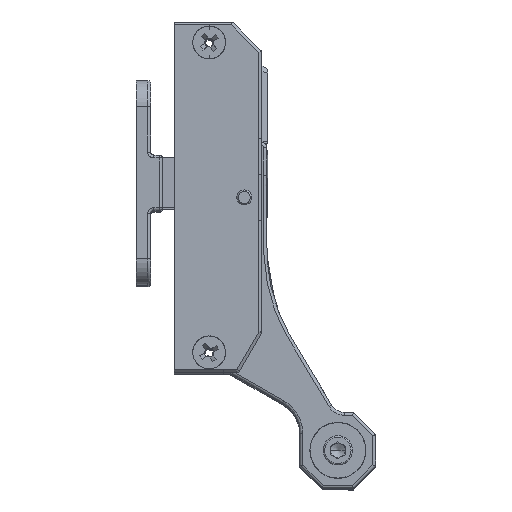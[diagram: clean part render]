
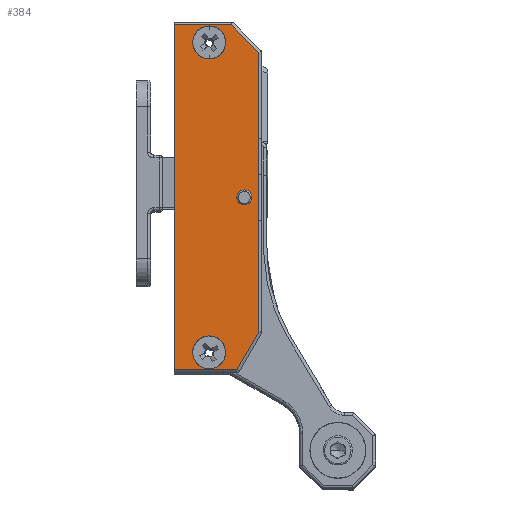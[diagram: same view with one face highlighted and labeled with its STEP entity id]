
A CAD part, top view. The second image highlights one B-rep face of the part: STEP entity #384.
In plain terms, the highlighted planar face has unit normal (0, 0, 1).
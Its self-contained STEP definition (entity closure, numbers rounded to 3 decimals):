
#384 = ADVANCED_FACE ( 'NONE', ( #13356, #13360, #13362, #13364 ), #12898, .F. ) ;
#2845 = EDGE_LOOP ( 'NONE', ( #4222, #4223, #4224, #4225, #4226, #4227, #4228, #4229 ) ) ;
#2848 = EDGE_LOOP ( 'NONE', ( #4234, #4235 ) ) ;
#2857 = EDGE_LOOP ( 'NONE', ( #4230, #4231 ) ) ;
#2858 = EDGE_LOOP ( 'NONE', ( #4232, #4233 ) ) ;
#3254 = EDGE_CURVE ( 'NONE', #4366, #4367, #19637, .T. ) ;
#3260 = EDGE_CURVE ( 'NONE', #4362, #4363, #19647, .T. ) ;
#3264 = EDGE_CURVE ( 'NONE', #4372, #4368, #19643, .T. ) ;
#3273 = EDGE_CURVE ( 'NONE', #4367, #4366, #19666, .T. ) ;
#3275 = EDGE_CURVE ( 'NONE', #4363, #4362, #19669, .T. ) ;
#3458 = EDGE_CURVE ( 'NONE', #4514, #4515, #19968, .T. ) ;
#3462 = EDGE_CURVE ( 'NONE', #4519, #4518, #19974, .T. ) ;
#3464 = EDGE_CURVE ( 'NONE', #4517, #4514, #3601, .T. ) ;
#3467 = EDGE_CURVE ( 'NONE', #4518, #4517, #19982, .T. ) ;
#3469 = EDGE_CURVE ( 'NONE', #4523, #4522, #19988, .T. ) ;
#3472 = EDGE_CURVE ( 'NONE', #4520, #4519, #19990, .T. ) ;
#3473 = EDGE_CURVE ( 'NONE', #4522, #4523, #19992, .T. ) ;
#3475 = EDGE_CURVE ( 'NONE', #4368, #4520, #19993, .T. ) ;
#3476 = EDGE_CURVE ( 'NONE', #4515, #4372, #3617, .T. ) ;
#3601 =( BOUNDED_CURVE ( )  B_SPLINE_CURVE ( 3, ( #20481, #20486, #20487, #20488 ),
 .UNSPECIFIED., .F., .T. ) 
 B_SPLINE_CURVE_WITH_KNOTS ( ( 4, 4 ),
 ( 2.958, 3.326 ),
 .UNSPECIFIED. ) 
 CURVE ( )  GEOMETRIC_REPRESENTATION_ITEM ( )  RATIONAL_B_SPLINE_CURVE ( ( 1., 0.989, 0.989, 1. ) ) 
 REPRESENTATION_ITEM ( '' )  );
#3617 =( BOUNDED_CURVE ( )  B_SPLINE_CURVE ( 3, ( #20511, #20519, #20520, #20521 ),
 .UNSPECIFIED., .F., .F. ) 
 B_SPLINE_CURVE_WITH_KNOTS ( ( 4, 4 ),
 ( 2.78, 3.503 ),
 .UNSPECIFIED. ) 
 CURVE ( )  GEOMETRIC_REPRESENTATION_ITEM ( )  RATIONAL_B_SPLINE_CURVE ( ( 1., 0.957, 0.957, 1. ) ) 
 REPRESENTATION_ITEM ( '' )  );
#4222 = ORIENTED_EDGE ( 'NONE', *, *, #3475, .F. ) ;
#4223 = ORIENTED_EDGE ( 'NONE', *, *, #3264, .F. ) ;
#4224 = ORIENTED_EDGE ( 'NONE', *, *, #3476, .F. ) ;
#4225 = ORIENTED_EDGE ( 'NONE', *, *, #3458, .F. ) ;
#4226 = ORIENTED_EDGE ( 'NONE', *, *, #3464, .F. ) ;
#4227 = ORIENTED_EDGE ( 'NONE', *, *, #3467, .F. ) ;
#4228 = ORIENTED_EDGE ( 'NONE', *, *, #3462, .F. ) ;
#4229 = ORIENTED_EDGE ( 'NONE', *, *, #3472, .F. ) ;
#4230 = ORIENTED_EDGE ( 'NONE', *, *, #3275, .F. ) ;
#4231 = ORIENTED_EDGE ( 'NONE', *, *, #3260, .F. ) ;
#4232 = ORIENTED_EDGE ( 'NONE', *, *, #3473, .F. ) ;
#4233 = ORIENTED_EDGE ( 'NONE', *, *, #3469, .F. ) ;
#4234 = ORIENTED_EDGE ( 'NONE', *, *, #3273, .F. ) ;
#4235 = ORIENTED_EDGE ( 'NONE', *, *, #3254, .F. ) ;
#4362 = VERTEX_POINT ( 'NONE', #21047 ) ;
#4363 = VERTEX_POINT ( 'NONE', #21061 ) ;
#4366 = VERTEX_POINT ( 'NONE', #21064 ) ;
#4367 = VERTEX_POINT ( 'NONE', #21065 ) ;
#4368 = VERTEX_POINT ( 'NONE', #21066 ) ;
#4372 = VERTEX_POINT ( 'NONE', #21070 ) ;
#4514 = VERTEX_POINT ( 'NONE', #22307 ) ;
#4515 = VERTEX_POINT ( 'NONE', #22308 ) ;
#4517 = VERTEX_POINT ( 'NONE', #22310 ) ;
#4518 = VERTEX_POINT ( 'NONE', #22311 ) ;
#4519 = VERTEX_POINT ( 'NONE', #22312 ) ;
#4520 = VERTEX_POINT ( 'NONE', #22313 ) ;
#4522 = VERTEX_POINT ( 'NONE', #22315 ) ;
#4523 = VERTEX_POINT ( 'NONE', #22316 ) ;
#8098 = AXIS2_PLACEMENT_3D ( 'NONE', #12899, #12900, #12901 ) ;
#8417 = AXIS2_PLACEMENT_3D ( 'NONE', #19421, #19427, #19428 ) ;
#8421 = AXIS2_PLACEMENT_3D ( 'NONE', #19995, #20002, #20003 ) ;
#8425 = AXIS2_PLACEMENT_3D ( 'NONE', #20038, #20040, #20041 ) ;
#8426 = AXIS2_PLACEMENT_3D ( 'NONE', #20027, #20034, #20035 ) ;
#8454 = AXIS2_PLACEMENT_3D ( 'NONE', #20492, #20499, #20500 ) ;
#8456 = AXIS2_PLACEMENT_3D ( 'NONE', #20503, #20512, #20513 ) ;
#12898 = PLANE ( 'NONE',  #8098 ) ;
#12899 = CARTESIAN_POINT ( 'NONE',  ( 20.754, 160.907, 25.946 ) ) ;
#12900 = DIRECTION ( 'NONE',  ( 0., 0., -1. ) ) ;
#12901 = DIRECTION ( 'NONE',  ( -1., 0., 0. ) ) ;
#13356 = FACE_OUTER_BOUND ( 'NONE', #2845, .T. ) ;
#13360 = FACE_BOUND ( 'NONE', #2857, .T. ) ;
#13362 = FACE_BOUND ( 'NONE', #2858, .T. ) ;
#13364 = FACE_BOUND ( 'NONE', #2848, .T. ) ;
#19421 = CARTESIAN_POINT ( 'NONE',  ( 35.563, 119.716, 25.946 ) ) ;
#19427 = DIRECTION ( 'NONE',  ( 0., 0., 1. ) ) ;
#19428 = DIRECTION ( 'NONE',  ( 1., 0., 0. ) ) ;
#19637 = CIRCLE ( 'NONE', #8417, 2.55 ) ;
#19643 = LINE ( 'NONE', #20010, #19651 ) ;
#19647 = CIRCLE ( 'NONE', #8421, 5.6 ) ;
#19651 = VECTOR ( 'NONE', #20014, 1000. ) ;
#19666 = CIRCLE ( 'NONE', #8426, 2.55 ) ;
#19669 = CIRCLE ( 'NONE', #8425, 5.6 ) ;
#19968 = LINE ( 'NONE', #20470, #19969 ) ;
#19969 = VECTOR ( 'NONE', #20471, 1000. ) ;
#19974 = LINE ( 'NONE', #20479, #19975 ) ;
#19975 = VECTOR ( 'NONE', #20480, 1000. ) ;
#19977 = VECTOR ( 'NONE', #20510, 1000. ) ;
#19982 = LINE ( 'NONE', #20494, #19983 ) ;
#19983 = VECTOR ( 'NONE', #20495, 1000. ) ;
#19988 = CIRCLE ( 'NONE', #8454, 5.6 ) ;
#19990 = LINE ( 'NONE', #20502, #19977 ) ;
#19992 = CIRCLE ( 'NONE', #8456, 5.6 ) ;
#19993 = LINE ( 'NONE', #20516, #21163 ) ;
#19995 = CARTESIAN_POINT ( 'NONE',  ( -17.437, 107.716, 25.946 ) ) ;
#20002 = DIRECTION ( 'NONE',  ( 0., 0., 1. ) ) ;
#20003 = DIRECTION ( 'NONE',  ( 1., 0., 0. ) ) ;
#20010 = CARTESIAN_POINT ( 'NONE',  ( 94.563, 160.907, 25.946 ) ) ;
#20014 = DIRECTION ( 'NONE',  ( 0., -1., 0. ) ) ;
#20027 = CARTESIAN_POINT ( 'NONE',  ( 35.563, 119.716, 25.946 ) ) ;
#20034 = DIRECTION ( 'NONE',  ( 0., 0., 1. ) ) ;
#20035 = DIRECTION ( 'NONE',  ( 1., 0., 0. ) ) ;
#20038 = CARTESIAN_POINT ( 'NONE',  ( -17.437, 107.716, 25.946 ) ) ;
#20040 = DIRECTION ( 'NONE',  ( 0., 0., 1. ) ) ;
#20041 = DIRECTION ( 'NONE',  ( 1., 0., 0. ) ) ;
#20470 = CARTESIAN_POINT ( 'NONE',  ( 81.603, 124.621, 25.946 ) ) ;
#20471 = DIRECTION ( 'NONE',  ( 0.866, -0.5, 0. ) ) ;
#20479 = CARTESIAN_POINT ( 'NONE',  ( -23.437, 115.302, 25.946 ) ) ;
#20480 = DIRECTION ( 'NONE',  ( 0.707, 0.707, 0. ) ) ;
#20481 = CARTESIAN_POINT ( 'NONE',  ( 81.249, 124.716, 25.946 ) ) ;
#20486 = CARTESIAN_POINT ( 'NONE',  ( 81.375, 124.716, 25.946 ) ) ;
#20487 = CARTESIAN_POINT ( 'NONE',  ( 81.494, 124.684, 25.946 ) ) ;
#20488 = CARTESIAN_POINT ( 'NONE',  ( 81.603, 124.621, 25.946 ) ) ;
#20492 = CARTESIAN_POINT ( 'NONE',  ( 88.563, 107.716, 25.946 ) ) ;
#20494 = CARTESIAN_POINT ( 'NONE',  ( 20.754, 124.716, 25.946 ) ) ;
#20495 = DIRECTION ( 'NONE',  ( 1., 0., 0. ) ) ;
#20499 = DIRECTION ( 'NONE',  ( 0., 0., 1. ) ) ;
#20500 = DIRECTION ( 'NONE',  ( 1., 0., 0. ) ) ;
#20502 = CARTESIAN_POINT ( 'NONE',  ( -23.437, 160.907, 25.946 ) ) ;
#20503 = CARTESIAN_POINT ( 'NONE',  ( 88.563, 107.716, 25.946 ) ) ;
#20510 = DIRECTION ( 'NONE',  ( 0., 1., 0. ) ) ;
#20511 = CARTESIAN_POINT ( 'NONE',  ( 94.21, 117.342, 25.946 ) ) ;
#20512 = DIRECTION ( 'NONE',  ( 0., 0., 1. ) ) ;
#20513 = DIRECTION ( 'NONE',  ( 1., 0., 0. ) ) ;
#20516 = CARTESIAN_POINT ( 'NONE',  ( -24.437, 95.716, 25.946 ) ) ;
#20517 = DIRECTION ( 'NONE',  ( -1., 0., 0. ) ) ;
#20519 = CARTESIAN_POINT ( 'NONE',  ( 94.44, 117.209, 25.946 ) ) ;
#20520 = CARTESIAN_POINT ( 'NONE',  ( 94.563, 116.996, 25.946 ) ) ;
#20521 = CARTESIAN_POINT ( 'NONE',  ( 94.563, 116.73, 25.946 ) ) ;
#21047 = CARTESIAN_POINT ( 'NONE',  ( -23.037, 107.716, 25.946 ) ) ;
#21061 = CARTESIAN_POINT ( 'NONE',  ( -11.837, 107.716, 25.946 ) ) ;
#21064 = CARTESIAN_POINT ( 'NONE',  ( 33.013, 119.716, 25.946 ) ) ;
#21065 = CARTESIAN_POINT ( 'NONE',  ( 38.113, 119.716, 25.946 ) ) ;
#21066 = CARTESIAN_POINT ( 'NONE',  ( 94.563, 95.716, 25.946 ) ) ;
#21070 = CARTESIAN_POINT ( 'NONE',  ( 94.563, 116.73, 25.946 ) ) ;
#21163 = VECTOR ( 'NONE', #20517, 1000. ) ;
#22307 = CARTESIAN_POINT ( 'NONE',  ( 81.603, 124.621, 25.946 ) ) ;
#22308 = CARTESIAN_POINT ( 'NONE',  ( 94.21, 117.342, 25.946 ) ) ;
#22310 = CARTESIAN_POINT ( 'NONE',  ( 81.249, 124.716, 25.946 ) ) ;
#22311 = CARTESIAN_POINT ( 'NONE',  ( -14.023, 124.716, 25.946 ) ) ;
#22312 = CARTESIAN_POINT ( 'NONE',  ( -23.437, 115.302, 25.946 ) ) ;
#22313 = CARTESIAN_POINT ( 'NONE',  ( -23.437, 95.716, 25.946 ) ) ;
#22315 = CARTESIAN_POINT ( 'NONE',  ( 94.163, 107.716, 25.946 ) ) ;
#22316 = CARTESIAN_POINT ( 'NONE',  ( 82.963, 107.716, 25.946 ) ) ;
